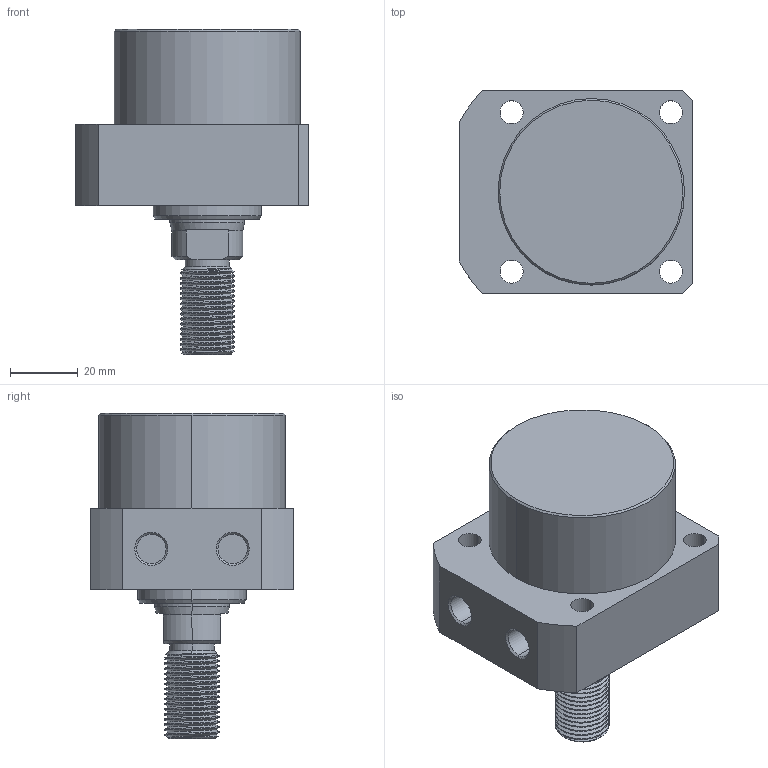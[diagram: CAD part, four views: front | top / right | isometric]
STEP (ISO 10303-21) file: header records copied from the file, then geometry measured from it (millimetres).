
FILE_DESCRIPTION (( 'STEP AP214' ), '1' );
FILE_NAME ('CLLR-055CT-(1-14).STEP', '2020-01-08T11:31:04', ( 'Windows' ), ( 'Microsoft' ), 'SwSTEP 2.0', 'SolidWorks 2015', '' );
FILE_SCHEMA (( 'AUTOMOTIVE_DESIGN' ));
Length unit declared in the file: millimetre
Products named in the file (1): CLLR-055CT-(1-14)
Bounding box: 69 x 60 x 96 mm (x, y, z)
Volume: 170858 mm3; surface area: 24808.1 mm2
Topology: 1 solids, 1 shells, 102 faces, 263 edges, 171 vertices
Faces by surface type: cylinder 61, plane 20, cone 19, bspline 2
Entity records: 5081 total; most frequent: CARTESIAN_POINT 2710, ORIENTED_EDGE 526, DIRECTION 458, EDGE_CURVE 263, AXIS2_PLACEMENT_3D 179, VERTEX_POINT 171, EDGE_LOOP 118, FACE_OUTER_BOUND 102
